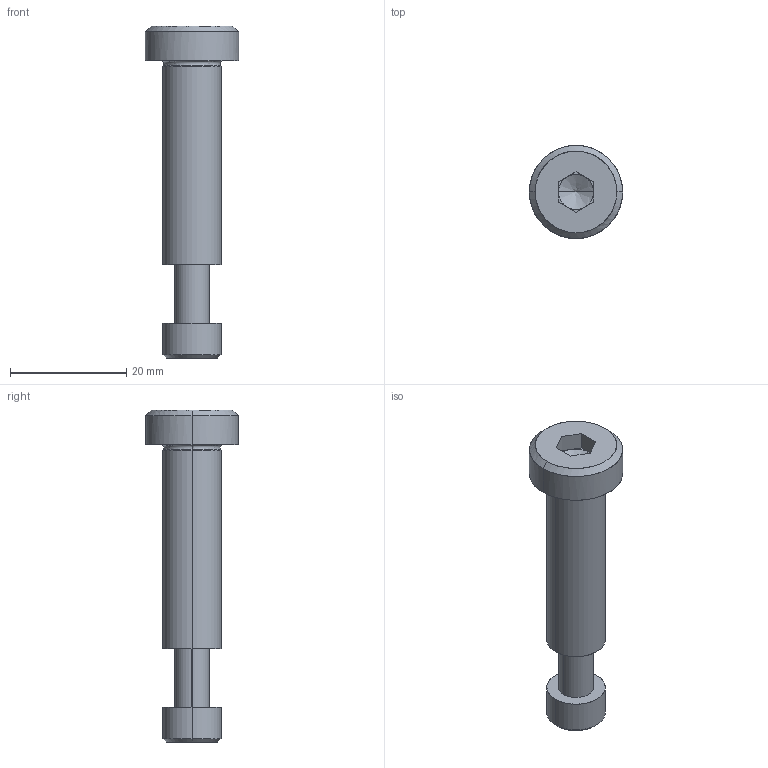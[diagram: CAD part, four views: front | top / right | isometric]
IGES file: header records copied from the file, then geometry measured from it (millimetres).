
Global section: file name: E:\UnigraphicsGraphicData\MISUMI_PRESS-PARTS\IGES\3d_sbtc10-35_05089_r00.igs; native system: NX V5.0; preprocessor: UGS NX IGES V5.0; author: MISUMI; date: 20110105.162442; units: millimetre
Bounding box: 16 x 16 x 57 mm (x, y, z)
Surface area: 3008.9 mm2 (no closed solid volume)
Topology: 0 solids, 0 shells, 52 faces, 280 edges, 276 vertices
Faces by surface type: bspline 52
